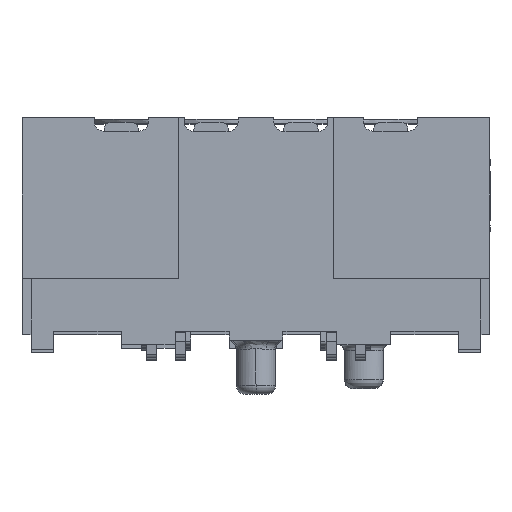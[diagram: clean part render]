
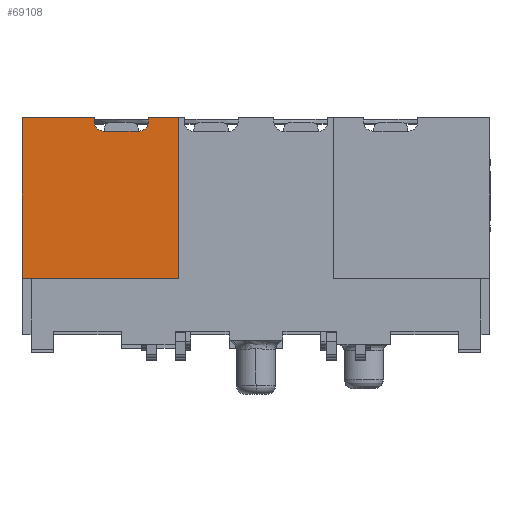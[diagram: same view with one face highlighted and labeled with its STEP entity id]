
A CAD part, top view. The second image highlights one B-rep face of the part: STEP entity #69108.
In plain terms, the highlighted planar face has unit normal (0, 0, 1).
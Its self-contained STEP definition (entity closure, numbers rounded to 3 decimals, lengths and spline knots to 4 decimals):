
#2093 = VECTOR ( 'NONE', #26352, 1000. ) ;
#3395 = VERTEX_POINT ( 'NONE', #18876 ) ;
#3831 = VECTOR ( 'NONE', #79158, 1000. ) ;
#4001 = CARTESIAN_POINT ( 'NONE',  ( -3.048, 4.826, 28.7274 ) ) ;
#4308 = ORIENTED_EDGE ( 'NONE', *, *, #43303, .F. ) ;
#4312 = VECTOR ( 'NONE', #18358, 1000. ) ;
#4340 = CARTESIAN_POINT ( 'NONE',  ( -4.572, 4.699, 28.7274 ) ) ;
#6092 = DIRECTION ( 'NONE',  ( 0., -1., 0. ) ) ;
#7296 = VERTEX_POINT ( 'NONE', #42311 ) ;
#8548 = AXIS2_PLACEMENT_3D ( 'NONE', #21792, #45886, #59057 ) ;
#8900 = DIRECTION ( 'NONE',  ( 0., 0., 1. ) ) ;
#9019 = DIRECTION ( 'NONE',  ( 1., 0., 0. ) ) ;
#9838 = CARTESIAN_POINT ( 'NONE',  ( -6.6167, 0.2794, 28.7274 ) ) ;
#10115 = CARTESIAN_POINT ( 'NONE',  ( -2.1971, 0.2794, 28.7274 ) ) ;
#10436 = ORIENTED_EDGE ( 'NONE', *, *, #42053, .F. ) ;
#10675 = CARTESIAN_POINT ( 'NONE',  ( -4.318, 4.445, 28.7274 ) ) ;
#13764 = EDGE_CURVE ( 'NONE', #57774, #28434, #64256, .T. ) ;
#18358 = DIRECTION ( 'NONE',  ( 0., 1., 0. ) ) ;
#18631 = CARTESIAN_POINT ( 'NONE',  ( -3.048, 4.826, 28.7274 ) ) ;
#18876 = CARTESIAN_POINT ( 'NONE',  ( -3.048, 4.699, 28.7274 ) ) ;
#20832 = VECTOR ( 'NONE', #6092, 1000. ) ;
#20917 = VERTEX_POINT ( 'NONE', #65382 ) ;
#21792 = CARTESIAN_POINT ( 'NONE',  ( -3.302, 4.699, 28.7274 ) ) ;
#23420 = DIRECTION ( 'NONE',  ( 1., 0., 0. ) ) ;
#23503 = CARTESIAN_POINT ( 'NONE',  ( -2.1971, 0.2794, 28.7274 ) ) ;
#23727 = VECTOR ( 'NONE', #78630, 1000. ) ;
#24318 = CARTESIAN_POINT ( 'NONE',  ( -6.6167, 0.2794, 28.7274 ) ) ;
#24651 = EDGE_CURVE ( 'NONE', #25363, #20917, #50340, .T. ) ;
#24750 = LINE ( 'NONE', #79156, #20832 ) ;
#25363 = VERTEX_POINT ( 'NONE', #24318 ) ;
#26352 = DIRECTION ( 'NONE',  ( 1., 0., 0. ) ) ;
#26432 = FACE_OUTER_BOUND ( 'NONE', #40302, .T. ) ;
#27083 = CARTESIAN_POINT ( 'NONE',  ( -4.318, 4.699, 28.7274 ) ) ;
#27926 = CIRCLE ( 'NONE', #8548, 0.254 ) ;
#28141 = EDGE_CURVE ( 'NONE', #7296, #57774, #24750, .T. ) ;
#28434 = VERTEX_POINT ( 'NONE', #10675 ) ;
#29018 = DIRECTION ( 'NONE',  ( 0., 1., 0. ) ) ;
#29904 = CARTESIAN_POINT ( 'NONE',  ( -6.6167, 0.2794, 28.7274 ) ) ;
#30533 = ORIENTED_EDGE ( 'NONE', *, *, #13764, .F. ) ;
#31030 = LINE ( 'NONE', #72869, #3831 ) ;
#31595 = LINE ( 'NONE', #55966, #57634 ) ;
#33933 = VECTOR ( 'NONE', #29018, 1000. ) ;
#36504 = ORIENTED_EDGE ( 'NONE', *, *, #28141, .F. ) ;
#38446 = VERTEX_POINT ( 'NONE', #10115 ) ;
#40302 = EDGE_LOOP ( 'NONE', ( #36504, #10436, #72144, #62953, #60238, #46716, #4308, #54086, #57642, #30533 ) ) ;
#40951 = CARTESIAN_POINT ( 'NONE',  ( -6.6167, 0.2794, 28.7274 ) ) ;
#42053 = EDGE_CURVE ( 'NONE', #20917, #7296, #31595, .T. ) ;
#42311 = CARTESIAN_POINT ( 'NONE',  ( -4.572, 4.826, 28.7274 ) ) ;
#43303 = EDGE_CURVE ( 'NONE', #3395, #57309, #70112, .T. ) ;
#44069 = LINE ( 'NONE', #23503, #23727 ) ;
#45886 = DIRECTION ( 'NONE',  ( 0., 0., 1. ) ) ;
#46337 = AXIS2_PLACEMENT_3D ( 'NONE', #27083, #8900, #51675 ) ;
#46350 = EDGE_CURVE ( 'NONE', #57309, #75125, #31030, .T. ) ;
#46716 = ORIENTED_EDGE ( 'NONE', *, *, #46350, .F. ) ;
#47552 = EDGE_CURVE ( 'NONE', #76385, #3395, #27926, .T. ) ;
#48706 = LINE ( 'NONE', #63322, #2093 ) ;
#49815 = VECTOR ( 'NONE', #9019, 1000. ) ;
#50340 = LINE ( 'NONE', #40951, #33933 ) ;
#51675 = DIRECTION ( 'NONE',  ( -1., 0., 0. ) ) ;
#54086 = ORIENTED_EDGE ( 'NONE', *, *, #47552, .F. ) ;
#55966 = CARTESIAN_POINT ( 'NONE',  ( -6.6167, 4.826, 28.7274 ) ) ;
#56604 = EDGE_CURVE ( 'NONE', #28434, #76385, #48706, .T. ) ;
#57309 = VERTEX_POINT ( 'NONE', #4001 ) ;
#57634 = VECTOR ( 'NONE', #80301, 1000. ) ;
#57642 = ORIENTED_EDGE ( 'NONE', *, *, #56604, .F. ) ;
#57774 = VERTEX_POINT ( 'NONE', #4340 ) ;
#58424 = LINE ( 'NONE', #9838, #49815 ) ;
#59057 = DIRECTION ( 'NONE',  ( 1., 0., 0. ) ) ;
#60238 = ORIENTED_EDGE ( 'NONE', *, *, #80306, .T. ) ;
#62257 = CARTESIAN_POINT ( 'NONE',  ( -3.302, 4.445, 28.7274 ) ) ;
#62953 = ORIENTED_EDGE ( 'NONE', *, *, #65672, .T. ) ;
#63322 = CARTESIAN_POINT ( 'NONE',  ( -4.318, 4.445, 28.7274 ) ) ;
#64256 = CIRCLE ( 'NONE', #46337, 0.254 ) ;
#65382 = CARTESIAN_POINT ( 'NONE',  ( -6.6167, 4.826, 28.7274 ) ) ;
#65672 = EDGE_CURVE ( 'NONE', #25363, #38446, #58424, .T. ) ;
#66878 = PLANE ( 'NONE',  #71435 ) ;
#69108 = ADVANCED_FACE ( 'NONE', ( #26432 ), #66878, .T. ) ;
#70112 = LINE ( 'NONE', #18631, #4312 ) ;
#71435 = AXIS2_PLACEMENT_3D ( 'NONE', #29904, #72255, #23420 ) ;
#72144 = ORIENTED_EDGE ( 'NONE', *, *, #24651, .F. ) ;
#72255 = DIRECTION ( 'NONE',  ( 0., 0., 1. ) ) ;
#72869 = CARTESIAN_POINT ( 'NONE',  ( -6.6167, 4.826, 28.7274 ) ) ;
#75125 = VERTEX_POINT ( 'NONE', #77892 ) ;
#76385 = VERTEX_POINT ( 'NONE', #62257 ) ;
#77892 = CARTESIAN_POINT ( 'NONE',  ( -2.1971, 4.826, 28.7274 ) ) ;
#78630 = DIRECTION ( 'NONE',  ( 0., 1., 0. ) ) ;
#79156 = CARTESIAN_POINT ( 'NONE',  ( -4.572, 4.826, 28.7274 ) ) ;
#79158 = DIRECTION ( 'NONE',  ( 1., 0., 0. ) ) ;
#80301 = DIRECTION ( 'NONE',  ( 1., 0., 0. ) ) ;
#80306 = EDGE_CURVE ( 'NONE', #38446, #75125, #44069, .T. ) ;
